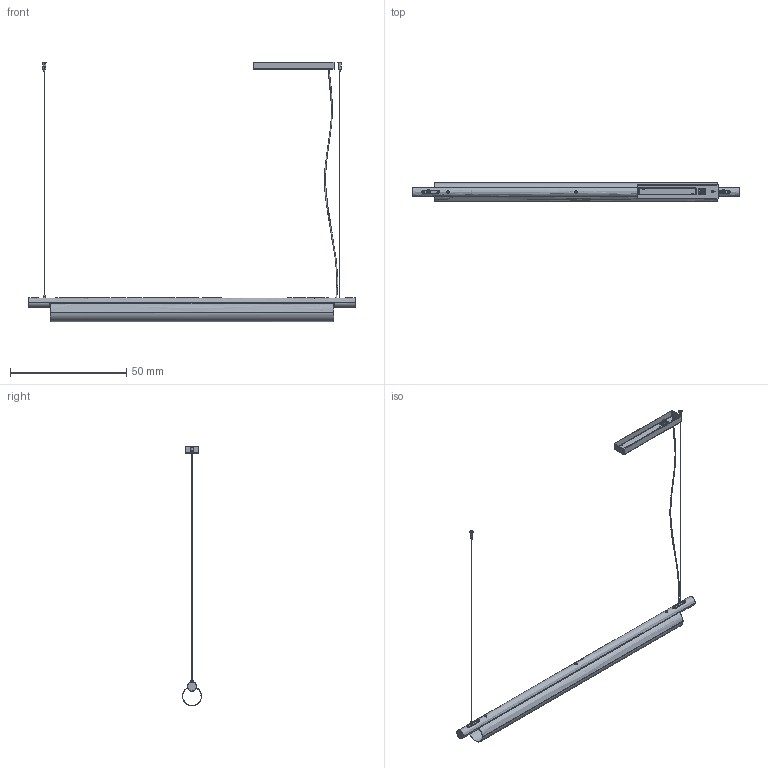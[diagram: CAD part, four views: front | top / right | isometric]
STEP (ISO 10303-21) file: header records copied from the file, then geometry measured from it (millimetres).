
FILE_DESCRIPTION(/* description */ (''),/* implementation_level */ '2;1');
FILE_NAME(/* name */ '3D_STI~1',/* time_stamp */ '2022-07-29T14:31:44+02:00',/* author */ (''),/* organization */ (''),/* preprocessor_version */ 'ST-DEVELOPER v15',/* originating_system */ '',/* authorisation */ '');
FILE_SCHEMA (('AUTOMOTIVE_DESIGN'));
Products named in the file (1): Document
Bounding box: 141 x 8.16 x 111.5 mm (x, y, z)
Surface area: 11411.4 mm2 (no closed solid volume)
Topology: 0 solids, 908 shells, 908 faces, 2987 edges, 2947 vertices
Faces by surface type: bspline 908
Entity records: 86188 total; most frequent: CARTESIAN_POINT 50625, B_SPLINE_CURVE_WITH_KNOTS 4575, ORIENTED_EDGE 2947, PCURVE 2947, DEFINITIONAL_REPRESENTATION 2947, SURFACE_CURVE 2947, EDGE_CURVE 2947, VERTEX_POINT 2947
